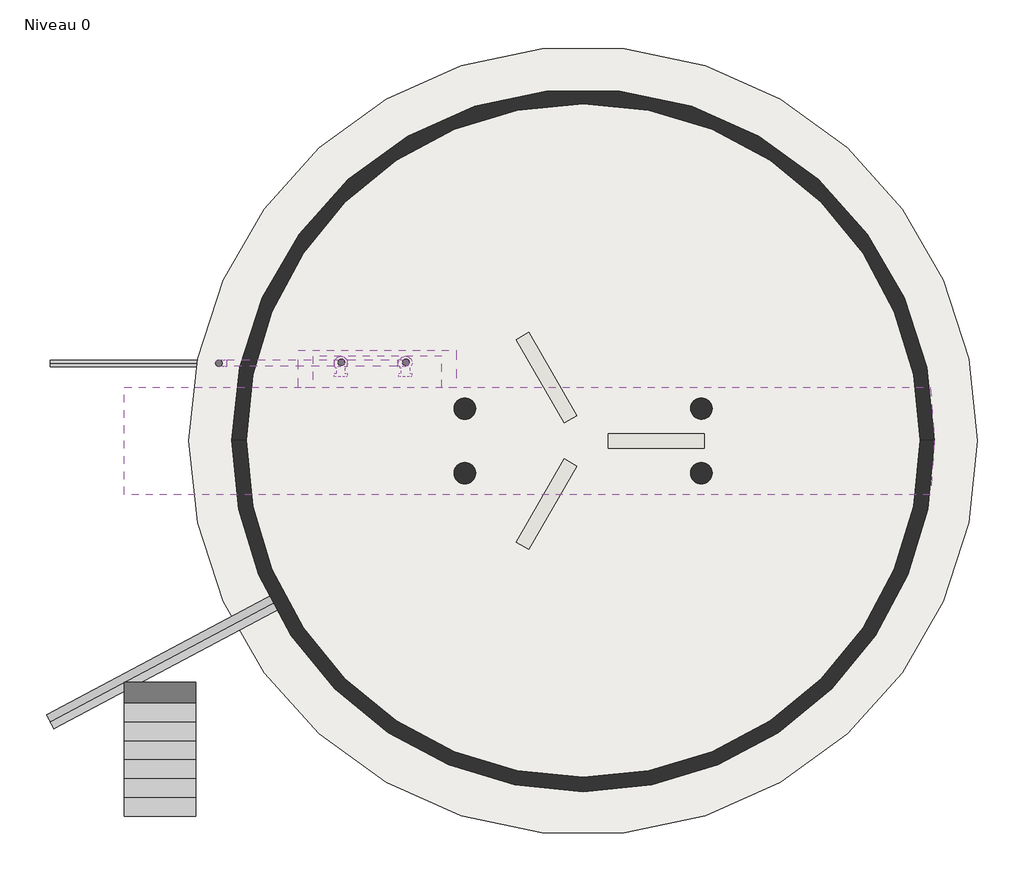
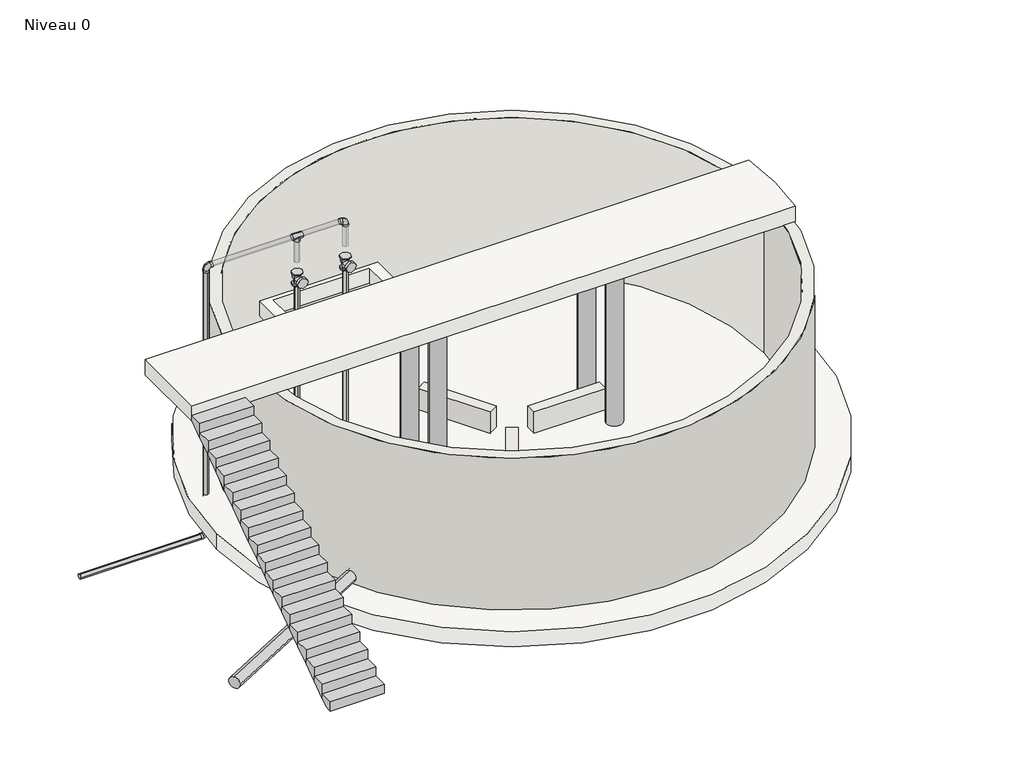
# One storey, incomplete: 9 pipe segments, 5 walls, 4 columns, 4 pipe fittings, 4 slabs, 2 valves, 1 stair flight.
"""IFC4 building model written with IfcOpenShell, lengths in millimetres."""

from ifc_helpers import new_model, si_unit, point, frame, frame_2d, origin, origin_with_axes, place, context, project, spatial, polyline, circle_curve, trimmed, segment, composite_curve, outline, extrude, faceted_brep, transform, mapped, element, save
from components import standard_a8c67635, standard_fcc2b165, valve_80_mm_5b8f5b0f

model = new_model("IFC4")

# Units and contexts
model_context = context("Model", 3, world=origin())
ifc_project = project(units=[si_unit("LENGTHUNIT", "METRE", prefix="MILLI")], contexts=[model_context])

# Site, building, storey
site = spatial("IfcSite", under=ifc_project)
building = spatial("IfcBuilding", under=site)
storey = spatial("IfcBuildingStorey", under=building, Name="Niveau 0", Elevation=0.0)

# Columns
placement = place(None, origin())
element("IfcColumn", 1, ObjectType="Poteau béton - Arrondi : 300mm", at=placement, inside=storey, context=model_context, shape_type="SweptSolid", body=[
    extrude(outline(composite_curve([segment(trimmed(circle_curve(frame_2d((2182.0788047, 190.7851563)), 150.0), [point((2032.0788047, 190.7851563))], [point((2332.0788047, 190.7851563))], False, "CARTESIAN"), True, "CONTINUOUS"), segment(trimmed(circle_curve(frame_2d((2182.0788047, 190.7851563)), 150.0), [point((2332.0788047, 190.7851563))], [point((2032.0788047, 190.7851563))], False, "CARTESIAN"), True, "CONTINUOUS")], self_intersect=False)), origin_with_axes(), (0.0, 0.0, 1.0), 3000.0),
])
element("IfcColumn", 2, ObjectType="Poteau béton - Arrondi : 300mm", at=placement, inside=storey, context=model_context, shape_type="SweptSolid", body=[
    extrude(outline(composite_curve([segment(trimmed(circle_curve(frame_2d((2182.0788047, -709.2148437)), 150.0), [point((2032.0788047, -709.2148437))], [point((2332.0788047, -709.2148437))], False, "CARTESIAN"), True, "CONTINUOUS"), segment(trimmed(circle_curve(frame_2d((2182.0788047, -709.2148437)), 150.0), [point((2332.0788047, -709.2148437))], [point((2032.0788047, -709.2148437))], False, "CARTESIAN"), True, "CONTINUOUS")], self_intersect=False)), origin_with_axes(), (0.0, 0.0, 1.0), 3000.0),
])
element("IfcColumn", 3, ObjectType="Poteau béton - Arrondi : 300mm", at=placement, inside=storey, context=model_context, shape_type="SweptSolid", body=[
    extrude(outline(composite_curve([segment(trimmed(circle_curve(frame_2d((-1117.9211953, 190.7851563)), 150.0), [point((-1267.9211953, 190.7851563))], [point((-967.9211953, 190.7851563))], False, "CARTESIAN"), True, "CONTINUOUS"), segment(trimmed(circle_curve(frame_2d((-1117.9211953, 190.7851563)), 150.0), [point((-967.9211953, 190.7851563))], [point((-1267.9211953, 190.7851563))], False, "CARTESIAN"), True, "CONTINUOUS")], self_intersect=False)), origin_with_axes(), (0.0, 0.0, 1.0), 3000.0),
])
element("IfcColumn", 4, ObjectType="Poteau béton - Arrondi : 300mm", at=placement, inside=storey, context=model_context, shape_type="SweptSolid", body=[
    extrude(outline(composite_curve([segment(trimmed(circle_curve(frame_2d((-1117.9211953, -709.2148437)), 150.0), [point((-1267.9211953, -709.2148437))], [point((-967.9211953, -709.2148437))], False, "CARTESIAN"), True, "CONTINUOUS"), segment(trimmed(circle_curve(frame_2d((-1117.9211953, -709.2148437)), 150.0), [point((-967.9211953, -709.2148437))], [point((-1267.9211953, -709.2148437))], False, "CARTESIAN"), True, "CONTINUOUS")], self_intersect=False)), origin_with_axes(), (0.0, 0.0, 1.0), 3000.0),
])

# Pipe fittings
standard_shape = standard_a8c67635(model_context)
element("IfcPipeFitting", 5, ObjectType="Coude court PVC-C Pression PN 16 : Standard", at=placement, inside=storey, context=model_context, shape_type="MappedRepresentation", body=[
    mapped(standard_shape, transform((-1947.4211953, 823.0634199, 4355.6264193), x_axis=(0.0, 0.0, 1.0), y_axis=(-1.0, 0.0, 0.0), z_axis=(0.0, -1.0, 0.0))),
])
element("IfcPipeFitting", 6, ObjectType="Coude court PVC-C Pression PN 16 : Standard", at=placement, inside=storey, context=model_context, shape_type="MappedRepresentation", body=[
    mapped(standard_shape, transform((-4416.45985, 823.0634199, 4486.5877646), x_axis=(-1.0, 0.0, 0.0), y_axis=(0.0, 0.0, -1.0), z_axis=(0.0, -1.0, 0.0))),
])
element("IfcPipeFitting", 7, ObjectType="Coude court PVC-C Pression PN 16 : Standard", at=placement, inside=storey, context=model_context, shape_type="MappedRepresentation", body=[
    mapped(standard_shape, transform((-4547.4211953, 823.0634199, -682.4508902), x_axis=(0.0, 0.0, -1.0), y_axis=(-1.0, 0.0, 0.0), z_axis=(0.0, 1.0, 0.0))),
])
standard_2_shape = standard_fcc2b165(model_context)
element("IfcPipeFitting", 8, ObjectType="Té PVC-C Pression PN 16 : Standard", at=placement, inside=storey, context=model_context, shape_type="MappedRepresentation", body=[
    mapped(standard_2_shape, transform((-2846.5319242, 823.0634199, 4486.5877646), x_axis=(1.0, 0.0, 0.0), y_axis=(0.0, 0.0, -1.0), z_axis=(0.0, 1.0, 0.0))),
])

# Pipe segments
element("IfcPipeSegment", 9, ObjectType="Par défaut", at=placement, inside=storey, context=model_context, shape_type="SweptSolid", body=[
    extrude(outline(composite_curve([segment(trimmed(circle_curve(frame_2d((0.0, -109.5375)), 109.5375), [point((-109.5375, -109.5375))], [point((0.0, 0.0))], False, "CARTESIAN"), True, "CONTINUOUS"), segment(trimmed(circle_curve(frame_2d((0.0, -109.5375)), 109.5375), [point((0.0, 0.0))], [point((109.5374999, -109.5375))], False, "CARTESIAN"), True, "CONTINUOUS"), segment(trimmed(circle_curve(frame_2d((0.0, -109.5375)), 109.5375), [point((109.5374999, -109.5375))], [point((0.0, -219.075))], False, "CARTESIAN"), True, "CONTINUOUS"), segment(trimmed(circle_curve(frame_2d((0.0, -109.5375)), 109.5375), [point((0.0, -219.075))], [point((-109.5375, -109.5375))], False, "CARTESIAN"), True, "CONTINUOUS")], self_intersect=False)), frame((-6901.3683977, -4178.5310635, 20.4625), z_axis=(0.8829475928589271, 0.46947156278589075, 0.0), x_axis=(0.46947156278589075, -0.8829475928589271, 0.0)), (0.0, 0.0, 1.0), 3715.0),
])
element("IfcPipeSegment", 10, ObjectType="PVC Pression PVC-C PN 16", at=placement, inside=storey, context=model_context, shape_type="SweptSolid", body=[
    extrude(outline(composite_curve([segment(trimmed(circle_curve(frame_2d((-2839.9211953, 836.7950784)), 45.0), [point((-2884.9211953, 836.7950784))], [point((-2839.9211953, 881.7950784))], False, "CARTESIAN"), True, "CONTINUOUS"), segment(trimmed(circle_curve(frame_2d((-2839.9211953, 836.7950784)), 45.0), [point((-2839.9211953, 881.7950784))], [point((-2794.9211953, 836.7950784))], False, "CARTESIAN"), True, "CONTINUOUS"), segment(trimmed(circle_curve(frame_2d((-2839.9211953, 836.7950784)), 45.0), [point((-2794.9211953, 836.7950784))], [point((-2839.9211953, 791.7950784))], False, "CARTESIAN"), True, "CONTINUOUS"), segment(trimmed(circle_curve(frame_2d((-2839.9211953, 836.7950784)), 45.0), [point((-2839.9211953, 791.7950784))], [point((-2884.9211953, 836.7950784))], False, "CARTESIAN"), True, "CONTINUOUS")], self_intersect=False)), frame((0.0, 0.0, 512.0), z_axis=(0.0, 0.0, 1.0), x_axis=(1.0, 0.0, 0.0)), (0.0, 0.0, 1.0), 3030.0),
])
element("IfcPipeSegment", 11, ObjectType="PVC Pression PVC-C PN 16", at=placement, inside=storey, context=model_context, shape_type="SweptSolid", body=[
    extrude(outline(composite_curve([segment(trimmed(circle_curve(frame_2d((-1939.9211953, 836.7950784)), 45.0), [point((-1984.9211953, 836.7950784))], [point((-1939.9211953, 881.7950784))], False, "CARTESIAN"), True, "CONTINUOUS"), segment(trimmed(circle_curve(frame_2d((-1939.9211953, 836.7950784)), 45.0), [point((-1939.9211953, 881.7950784))], [point((-1894.9211953, 836.7950784))], False, "CARTESIAN"), True, "CONTINUOUS"), segment(trimmed(circle_curve(frame_2d((-1939.9211953, 836.7950784)), 45.0), [point((-1894.9211953, 836.7950784))], [point((-1939.9211953, 791.7950784))], False, "CARTESIAN"), True, "CONTINUOUS"), segment(trimmed(circle_curve(frame_2d((-1939.9211953, 836.7950784)), 45.0), [point((-1939.9211953, 791.7950784))], [point((-1984.9211953, 836.7950784))], False, "CARTESIAN"), True, "CONTINUOUS")], self_intersect=False)), frame((0.0, 0.0, 512.0), z_axis=(0.0, 0.0, 1.0), x_axis=(1.0, 0.0, 0.0)), (0.0, 0.0, 1.0), 3030.0),
])
element("IfcPipeSegment", 12, ObjectType="PVC Pression PVC-C PN 16", at=placement, inside=storey, context=model_context, shape_type="SweptSolid", body=[
    extrude(outline(composite_curve([segment(trimmed(circle_curve(frame_2d((-1947.4211953, 823.0634199)), 45.0), [point((-1992.4211953, 823.0634199))], [point((-1947.4211953, 868.0634199))], False, "CARTESIAN"), True, "CONTINUOUS"), segment(trimmed(circle_curve(frame_2d((-1947.4211953, 823.0634199)), 45.0), [point((-1947.4211953, 868.0634199))], [point((-1902.4211953, 823.0634199))], False, "CARTESIAN"), True, "CONTINUOUS"), segment(trimmed(circle_curve(frame_2d((-1947.4211953, 823.0634199)), 45.0), [point((-1902.4211953, 823.0634199))], [point((-1947.4211953, 778.0634199))], False, "CARTESIAN"), True, "CONTINUOUS"), segment(trimmed(circle_curve(frame_2d((-1947.4211953, 823.0634199)), 45.0), [point((-1947.4211953, 778.0634199))], [point((-1992.4211953, 823.0634199))], False, "CARTESIAN"), True, "CONTINUOUS")], self_intersect=False)), frame((0.0, 0.0, 3986.5877646), z_axis=(0.0, 0.0, 1.0), x_axis=(1.0, 0.0, 0.0)), (0.0, 0.0, 1.0), 394.760104),
])
element("IfcPipeSegment", 13, ObjectType="PVC Pression PVC-C PN 16", at=placement, inside=storey, context=model_context, shape_type="SweptSolid", body=[
    extrude(outline(composite_curve([segment(trimmed(circle_curve(frame_2d((823.0634199, 4486.5877646)), 45.0), [point((868.0634199, 4486.5877646))], [point((823.0634199, 4441.5877646))], False, "CARTESIAN"), True, "CONTINUOUS"), segment(trimmed(circle_curve(frame_2d((823.0634199, 4486.5877646)), 45.0), [point((823.0634199, 4441.5877646))], [point((778.0634199, 4486.5877646))], False, "CARTESIAN"), True, "CONTINUOUS"), segment(trimmed(circle_curve(frame_2d((823.0634199, 4486.5877646)), 45.0), [point((778.0634199, 4486.5877646))], [point((823.0634199, 4531.5877646))], False, "CARTESIAN"), True, "CONTINUOUS"), segment(trimmed(circle_curve(frame_2d((823.0634199, 4486.5877646)), 45.0), [point((823.0634199, 4531.5877646))], [point((868.0634199, 4486.5877646))], False, "CARTESIAN"), True, "CONTINUOUS")], self_intersect=False)), frame((-4442.1812993, 0.0, 0.0), z_axis=(1.0, 0.0, 0.0), x_axis=(0.0, 1.0, 0.0)), (0.0, 0.0, 1.0), 1505.6493751),
])
element("IfcPipeSegment", 14, ObjectType="PVC Pression PVC-C PN 16", at=placement, inside=storey, context=model_context, shape_type="SweptSolid", body=[
    extrude(outline(composite_curve([segment(trimmed(circle_curve(frame_2d((-4547.4211953, 823.0634199)), 45.0), [point((-4502.4211953, 823.0634199))], [point((-4547.4211953, 778.0634199))], False, "CARTESIAN"), True, "CONTINUOUS"), segment(trimmed(circle_curve(frame_2d((-4547.4211953, 823.0634199)), 45.0), [point((-4547.4211953, 778.0634199))], [point((-4592.4211953, 823.0634199))], False, "CARTESIAN"), True, "CONTINUOUS"), segment(trimmed(circle_curve(frame_2d((-4547.4211953, 823.0634199)), 45.0), [point((-4592.4211953, 823.0634199))], [point((-4547.4211953, 868.0634199))], False, "CARTESIAN"), True, "CONTINUOUS"), segment(trimmed(circle_curve(frame_2d((-4547.4211953, 823.0634199)), 45.0), [point((-4547.4211953, 868.0634199))], [point((-4502.4211953, 823.0634199))], False, "CARTESIAN"), True, "CONTINUOUS")], self_intersect=False)), frame((0.0, 0.0, -708.1723394), z_axis=(0.0, 0.0, 1.0), x_axis=(1.0, 0.0, 0.0)), (0.0, 0.0, 1.0), 5089.520208),
])
element("IfcPipeSegment", 15, ObjectType="PVC Pression PVC-C PN 16", at=placement, inside=storey, context=model_context, shape_type="SweptSolid", body=[
    extrude(outline(composite_curve([segment(trimmed(circle_curve(frame_2d((823.0634199, -813.4122354)), 45.0), [point((868.0634199, -813.4122354))], [point((823.0634199, -858.4122354))], False, "CARTESIAN"), True, "CONTINUOUS"), segment(trimmed(circle_curve(frame_2d((823.0634199, -813.4122354)), 45.0), [point((823.0634199, -858.4122354))], [point((778.0634199, -813.4122354))], False, "CARTESIAN"), True, "CONTINUOUS"), segment(trimmed(circle_curve(frame_2d((823.0634199, -813.4122354)), 45.0), [point((778.0634199, -813.4122354))], [point((823.0634199, -768.4122354))], False, "CARTESIAN"), True, "CONTINUOUS"), segment(trimmed(circle_curve(frame_2d((823.0634199, -813.4122354)), 45.0), [point((823.0634199, -768.4122354))], [point((868.0634199, -813.4122354))], False, "CARTESIAN"), True, "CONTINUOUS")], self_intersect=False)), frame((-6901.3683977, 0.0, 0.0), z_axis=(1.0, 0.0, 0.0), x_axis=(0.0, 1.0, 0.0)), (0.0, 0.0, 1.0), 2248.7073064),
])
element("IfcPipeSegment", 16, ObjectType="PVC Pression PVC-C PN 16", at=placement, inside=storey, context=model_context, shape_type="SweptSolid", body=[
    extrude(outline(composite_curve([segment(trimmed(circle_curve(frame_2d((-2846.5319242, 823.0634199)), 45.0), [point((-2801.5319242, 823.0634199))], [point((-2846.5319242, 778.0634199))], False, "CARTESIAN"), True, "CONTINUOUS"), segment(trimmed(circle_curve(frame_2d((-2846.5319242, 823.0634199)), 45.0), [point((-2846.5319242, 778.0634199))], [point((-2891.5319242, 823.0634199))], False, "CARTESIAN"), True, "CONTINUOUS"), segment(trimmed(circle_curve(frame_2d((-2846.5319242, 823.0634199)), 45.0), [point((-2891.5319242, 823.0634199))], [point((-2846.5319242, 868.0634199))], False, "CARTESIAN"), True, "CONTINUOUS"), segment(trimmed(circle_curve(frame_2d((-2846.5319242, 823.0634199)), 45.0), [point((-2846.5319242, 868.0634199))], [point((-2801.5319242, 823.0634199))], False, "CARTESIAN"), True, "CONTINUOUS")], self_intersect=False)), frame((0.0, 0.0, 3986.5877646), z_axis=(0.0, 0.0, 1.0), x_axis=(1.0, 0.0, 0.0)), (0.0, 0.0, 1.0), 410.0),
])
element("IfcPipeSegment", 17, ObjectType="PVC Pression PVC-C PN 16", at=placement, inside=storey, context=model_context, shape_type="SweptSolid", body=[
    extrude(outline(composite_curve([segment(trimmed(circle_curve(frame_2d((823.0634199, 4486.5877646)), 45.0), [point((868.0634199, 4486.5877646))], [point((823.0634199, 4441.5877646))], False, "CARTESIAN"), True, "CONTINUOUS"), segment(trimmed(circle_curve(frame_2d((823.0634199, 4486.5877646)), 45.0), [point((823.0634199, 4441.5877646))], [point((778.0634199, 4486.5877646))], False, "CARTESIAN"), True, "CONTINUOUS"), segment(trimmed(circle_curve(frame_2d((823.0634199, 4486.5877646)), 45.0), [point((778.0634199, 4486.5877646))], [point((823.0634199, 4531.5877646))], False, "CARTESIAN"), True, "CONTINUOUS"), segment(trimmed(circle_curve(frame_2d((823.0634199, 4486.5877646)), 45.0), [point((823.0634199, 4531.5877646))], [point((868.0634199, 4486.5877646))], False, "CARTESIAN"), True, "CONTINUOUS")], self_intersect=False)), frame((-2756.5319242, 0.0, 0.0), z_axis=(1.0, 0.0, 0.0), x_axis=(0.0, 1.0, 0.0)), (0.0, 0.0, 1.0), 703.8708329),
])

# Slabs
element("IfcSlab", 18, ObjectType="Dalle en béton - 250 mm", at=placement, inside=storey, context=model_context, shape_type="SweptSolid", body=[
    extrude(outline(composite_curve([segment(trimmed(circle_curve(frame_2d((534.1794672, -258.406044)), 5500.0), [point((-4965.8205328, -258.406044))], [point((6034.1794672, -258.406044))], False, "CARTESIAN"), True, "CONTINUOUS"), segment(trimmed(circle_curve(frame_2d((534.1794672, -258.406044)), 5500.0), [point((6034.1794672, -258.406044))], [point((-4965.8205328, -258.406044))], False, "CARTESIAN"), True, "CONTINUOUS")], self_intersect=False)), frame((0.0, 0.0, -300.0), z_axis=(0.0, 0.0, 1.0), x_axis=(1.0, 0.0, 0.0)), (0.0, 0.0, 1.0), 300.0),
])
element("IfcSlab", 19, ObjectType="Dalle en béton - 250 mm", at=placement, inside=storey, context=model_context, shape_type="SweptSolid", body=[
    extrude(outline(composite_curve([segment(trimmed(circle_curve(frame_2d((533.9081305, -254.4868537)), 4700.0), [point((-4166.0918695, -254.4868537))], [point((5233.9081305, -254.4868537))], False, "CARTESIAN"), True, "CONTINUOUS"), segment(trimmed(circle_curve(frame_2d((533.9081305, -254.4868537)), 4700.0), [point((5233.9081305, -254.4868537))], [point((-4166.0918695, -254.4868537))], False, "CARTESIAN"), True, "CONTINUOUS")], self_intersect=False)), frame((0.0, 0.0, -300.0), z_axis=(0.0, 0.0, 1.0), x_axis=(1.0, 0.0, 0.0)), (0.0, 0.0, 1.0), 300.0),
])
element("IfcSlab", 20, ObjectType="Dalle en béton - 250 mm", at=placement, inside=storey, context=model_context, shape_type="SweptSolid", body=[
    extrude(outline(composite_curve([segment(polyline([(-5865.8205328, 490.7851563), (5376.8999363, 490.7851563)]), True, "CONTINUOUS"), segment(trimmed(circle_curve(frame_2d((472.0987949, -259.2148437)), 4961.8115882), [point((5376.8999363, 490.7851563))], [point((5376.8999363, -1009.2148437))], False, "CARTESIAN"), True, "CONTINUOUS"), segment(polyline([(5376.8999363, -1009.2148437), (-5865.8205328, -1009.2148437), (-5865.8205328, 490.7851563)]), True, "CONTINUOUS")], self_intersect=False)), frame((0.0, 0.0, 3000.0), z_axis=(0.0, 0.0, 1.0), x_axis=(1.0, 0.0, 0.0)), (0.0, 0.0, 1.0), 300.0),
])
element("IfcSlab", 21, ObjectType="Dalle en béton - 250 mm", at=placement, inside=storey, context=model_context, shape_type="SweptSolid", body=[
    extrude(outline(polyline([(-3440.4581719, 1002.5362553), (-1240.4581719, 1002.5362553), (-1240.4581719, 482.5362553), (-1440.4581719, 482.5362553), (-1440.4581719, 922.5362553), (-3240.4581719, 922.5362553), (-3240.4581719, 482.5362553), (-3440.4581719, 482.5362553), (-3440.4581719, 1002.5362553)])), frame((0.0, 0.0, 3000.0), z_axis=(0.0, 0.0, 1.0), x_axis=(1.0, 0.0, 0.0)), (0.0, 0.0, 1.0), 300.0),
])

# Stair flight
element("IfcStairFlight", 22, ObjectType="Profondeur de structure 80 mm", at=placement, inside=storey, context=model_context, shape_type="Brep", body=[
    faceted_brep([(-5871.4997395, -5229.9911217, 183.3333333), (-5871.4997395, -5493.324455, 183.3333333), (-4871.4997395, -5493.324455, 183.3333333), (-4871.4997395, -5229.9911217, 183.3333333), (-5871.4997395, -5229.9911217, 85.8547871), (-5871.4997395, -5353.3098158, 0.0), (-5871.4997395, -5493.324455, 0.0), (-4871.4997395, -5493.324455, 0.0), (-4871.4997395, -5353.3098158, 0.0), (-4871.4997395, -5229.9911217, 85.8547871), (-5871.4997395, -4966.6577883, 366.6666667), (-5871.4997395, -5229.9911217, 366.6666667), (-4871.4997395, -5229.9911217, 366.6666667), (-4871.4997395, -4966.6577883, 366.6666667), (-5871.4997395, -4966.6577883, 269.1881204), (-4871.4997395, -4966.6577883, 269.1881204), (-5871.4997395, -4703.324455, 550.0), (-5871.4997395, -4966.6577883, 550.0), (-4871.4997395, -4966.6577883, 550.0), (-4871.4997395, -4703.324455, 550.0), (-5871.4997395, -4703.324455, 452.5214538), (-4871.4997395, -4703.324455, 452.5214538), (-5871.4997395, -4439.9911217, 733.3333333), (-5871.4997395, -4703.324455, 733.3333333), (-4871.4997395, -4703.324455, 733.3333333), (-4871.4997395, -4439.9911217, 733.3333333), (-5871.4997395, -4439.9911217, 635.8547871), (-4871.4997395, -4439.9911217, 635.8547871), (-5871.4997395, -4176.6577883, 916.6666667), (-5871.4997395, -4439.9911217, 916.6666667), (-4871.4997395, -4439.9911217, 916.6666667), (-4871.4997395, -4176.6577883, 916.6666667), (-5871.4997395, -4176.6577883, 819.1881204), (-4871.4997395, -4176.6577883, 819.1881204), (-5871.4997395, -3913.324455, 1100.0), (-5871.4997395, -4176.6577883, 1100.0), (-4871.4997395, -4176.6577883, 1100.0), (-4871.4997395, -3913.324455, 1100.0), (-5871.4997395, -3913.324455, 1002.5214538), (-4871.4997395, -3913.324455, 1002.5214538), (-5871.4997395, -3649.9911217, 1283.3333333), (-5871.4997395, -3913.324455, 1283.3333333), (-4871.4997395, -3913.324455, 1283.3333333), (-4871.4997395, -3649.9911217, 1283.3333333), (-5871.4997395, -3649.9911217, 1185.8547871), (-4871.4997395, -3649.9911217, 1185.8547871), (-5871.4997395, -3386.6577883, 1466.6666667), (-5871.4997395, -3649.9911217, 1466.6666667), (-4871.4997395, -3649.9911217, 1466.6666667), (-4871.4997395, -3386.6577883, 1466.6666667), (-5871.4997395, -3386.6577883, 1369.1881204), (-4871.4997395, -3386.6577883, 1369.1881204), (-5871.4997395, -3123.324455, 1650.0), (-5871.4997395, -3386.6577883, 1650.0), (-4871.4997395, -3386.6577883, 1650.0), (-4871.4997395, -3123.324455, 1650.0), (-5871.4997395, -3123.324455, 1552.5214538), (-4871.4997395, -3123.324455, 1552.5214538), (-5871.4997395, -2859.9911217, 1833.3333333), (-5871.4997395, -3123.324455, 1833.3333333), (-4871.4997395, -3123.324455, 1833.3333333), (-4871.4997395, -2859.9911217, 1833.3333333), (-5871.4997395, -2859.9911217, 1735.8547871), (-4871.4997395, -2859.9911217, 1735.8547871), (-5871.4997395, -2596.6577883, 2016.6666667), (-5871.4997395, -2859.9911217, 2016.6666667), (-4871.4997395, -2859.9911217, 2016.6666667), (-4871.4997395, -2596.6577883, 2016.6666667), (-5871.4997395, -2596.6577883, 1919.1881204), (-4871.4997395, -2596.6577883, 1919.1881204), (-5871.4997395, -2333.324455, 2200.0), (-5871.4997395, -2596.6577883, 2200.0), (-4871.4997395, -2596.6577883, 2200.0), (-4871.4997395, -2333.324455, 2200.0), (-5871.4997395, -2333.324455, 2102.5214538), (-4871.4997395, -2333.324455, 2102.5214538), (-5871.4997395, -2069.9911217, 2383.3333333), (-5871.4997395, -2333.324455, 2383.3333333), (-4871.4997395, -2333.324455, 2383.3333333), (-4871.4997395, -2069.9911217, 2383.3333333), (-5871.4997395, -2069.9911217, 2285.8547871), (-4871.4997395, -2069.9911217, 2285.8547871), (-5871.4997395, -1806.6577883, 2566.6666667), (-5871.4997395, -2069.9911217, 2566.6666667), (-4871.4997395, -2069.9911217, 2566.6666667), (-4871.4997395, -1806.6577883, 2566.6666667), (-5871.4997395, -1806.6577883, 2469.1881204), (-4871.4997395, -1806.6577883, 2469.1881204), (-5871.4997395, -1543.324455, 2750.0), (-5871.4997395, -1806.6577883, 2750.0), (-4871.4997395, -1806.6577883, 2750.0), (-4871.4997395, -1543.324455, 2750.0), (-5871.4997395, -1543.324455, 2652.5214538), (-4871.4997395, -1543.324455, 2652.5214538), (-5871.4997395, -1279.9911217, 2933.3333333), (-5871.4997395, -1543.324455, 2933.3333333), (-4871.4997395, -1543.324455, 2933.3333333), (-4871.4997395, -1279.9911217, 2933.3333333), (-5871.4997395, -1279.9911217, 2835.8547871), (-4871.4997395, -1279.9911217, 2835.8547871), (-5871.4997395, -1016.6577883, 3116.6666667), (-5871.4997395, -1279.9911217, 3116.6666667), (-4871.4997395, -1279.9911217, 3116.6666667), (-4871.4997395, -1016.6577883, 3116.6666667), (-5871.4997395, -1016.6577883, 3019.1881204), (-4871.4997395, -1016.6577883, 3019.1881204)], [[[0, 1, 2, 3]], [[1, 0, 4, 5, 6]], [[2, 1, 6, 7]], [[3, 2, 7, 8, 9]], [[10, 11, 12, 13]], [[11, 10, 14, 4, 0]], [[0, 3, 12, 11]], [[13, 12, 3, 9, 15]], [[16, 17, 18, 19]], [[17, 16, 20, 14, 10]], [[10, 13, 18, 17]], [[19, 18, 13, 15, 21]], [[22, 23, 24, 25]], [[23, 22, 26, 20, 16]], [[16, 19, 24, 23]], [[25, 24, 19, 21, 27]], [[28, 29, 30, 31]], [[29, 28, 32, 26, 22]], [[22, 25, 30, 29]], [[31, 30, 25, 27, 33]], [[34, 35, 36, 37]], [[35, 34, 38, 32, 28]], [[28, 31, 36, 35]], [[37, 36, 31, 33, 39]], [[40, 41, 42, 43]], [[41, 40, 44, 38, 34]], [[34, 37, 42, 41]], [[43, 42, 37, 39, 45]], [[46, 47, 48, 49]], [[47, 46, 50, 44, 40]], [[40, 43, 48, 47]], [[49, 48, 43, 45, 51]], [[52, 53, 54, 55]], [[53, 52, 56, 50, 46]], [[46, 49, 54, 53]], [[55, 54, 49, 51, 57]], [[58, 59, 60, 61]], [[59, 58, 62, 56, 52]], [[52, 55, 60, 59]], [[61, 60, 55, 57, 63]], [[64, 65, 66, 67]], [[65, 64, 68, 62, 58]], [[58, 61, 66, 65]], [[67, 66, 61, 63, 69]], [[70, 71, 72, 73]], [[71, 70, 74, 68, 64]], [[64, 67, 72, 71]], [[73, 72, 67, 69, 75]], [[76, 77, 78, 79]], [[77, 76, 80, 74, 70]], [[70, 73, 78, 77]], [[79, 78, 73, 75, 81]], [[82, 83, 84, 85]], [[83, 82, 86, 80, 76]], [[76, 79, 84, 83]], [[85, 84, 79, 81, 87]], [[88, 89, 90, 91]], [[89, 88, 92, 86, 82]], [[82, 85, 90, 89]], [[91, 90, 85, 87, 93]], [[94, 95, 96, 97]], [[95, 94, 98, 92, 88]], [[88, 91, 96, 95]], [[97, 96, 91, 93, 99]], [[100, 101, 102, 103]], [[101, 100, 104, 98, 94]], [[94, 97, 102, 101]], [[103, 102, 97, 99, 105]], [[100, 103, 105, 104]], [[7, 6, 5, 8]], [[8, 5, 4, 14, 20, 26, 32, 38, 44, 50, 56, 62, 68, 74, 80, 86, 92, 98, 104, 105, 99, 93, 87, 81, 75, 69, 63, 57, 51, 45, 39, 33, 27, 21, 15, 9]]]),
])

# Valves
valve_80_mm_shape = valve_80_mm_5b8f5b0f(model_context)
element("IfcValve", 23, ObjectType="Clapet anti-retour - 50-300 mm - Bridé : 80 mm", at=placement, inside=storey, context=model_context, shape_type="MappedRepresentation", body=[
    mapped(valve_80_mm_shape, transform((-2846.5319242, 823.0634199, 3659.7570634), x_axis=(-0.010493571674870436, 0.0, 0.9999449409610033), y_axis=(-0.9999449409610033, 0.0, -0.010493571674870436), z_axis=(0.0, -1.0, 0.0))),
])
element("IfcValve", 24, ObjectType="Clapet anti-retour - 50-300 mm - Bridé : 80 mm", at=placement, inside=storey, context=model_context, shape_type="MappedRepresentation", body=[
    mapped(valve_80_mm_shape, transform((-1946.5319242, 823.0634199, 3659.7570634), x_axis=(-0.010493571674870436, 0.0, 0.9999449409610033), y_axis=(-0.9999449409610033, 0.0, -0.010493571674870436), z_axis=(0.0, -1.0, 0.0))),
])

# Walls
element("IfcWall", 25, ObjectType="Générique - Ext. 200 mm", at=placement, inside=storey, context=model_context, shape_type="SweptSolid", body=[
    extrude(outline(composite_curve([segment(polyline([(-4166.0918695, -254.4868537), (-4366.0918695, -254.4868537)]), True, "CONTINUOUS"), segment(trimmed(circle_curve(frame_2d((533.9081305, -254.4868537)), 4900.0), [point((-4366.0918695, -254.4868537))], [point((5433.9081305, -254.4868537))], False, "CARTESIAN"), True, "CONTINUOUS"), segment(polyline([(5433.9081305, -254.4868537), (5233.9081305, -254.4868537)]), True, "CONTINUOUS"), segment(trimmed(circle_curve(frame_2d((533.9081305, -254.4868537)), 4700.0), [point((5233.9081305, -254.4868537))], [point((-4166.0918695, -254.4868537))], True, "CARTESIAN"), True, "CONTINUOUS")], self_intersect=False)), origin_with_axes(), (0.0, 0.0, 1.0), 3000.0),
])
element("IfcWall", 26, ObjectType="Générique - Ext. 200 mm", at=placement, inside=storey, context=model_context, shape_type="SweptSolid", body=[
    extrude(outline(composite_curve([segment(polyline([(5233.9081305, -254.4868537), (5433.9081305, -254.4868537)]), True, "CONTINUOUS"), segment(trimmed(circle_curve(frame_2d((533.9081305, -254.4868537)), 4900.0), [point((5433.9081305, -254.4868537))], [point((-4366.0918695, -254.4868537))], False, "CARTESIAN"), True, "CONTINUOUS"), segment(polyline([(-4366.0918695, -254.4868537), (-4166.0918695, -254.4868537)]), True, "CONTINUOUS"), segment(trimmed(circle_curve(frame_2d((533.9081305, -254.4868537)), 4700.0), [point((-4166.0918695, -254.4868537))], [point((5233.9081305, -254.4868537))], True, "CARTESIAN"), True, "CONTINUOUS")], self_intersect=False)), origin_with_axes(), (0.0, 0.0, 1.0), 3000.0),
])
element("IfcWall", 27, ObjectType="Générique - Ext. 200 mm", at=placement, inside=storey, context=model_context, shape_type="SweptSolid", body=[
    extrude(outline(polyline([(2222.0788047, -359.2148437), (882.0788047, -359.2148437), (882.0788047, -159.2148437), (2222.0788047, -159.2148437), (2222.0788047, -359.2148437)])), origin_with_axes(), (0.0, 0.0, 1.0), 420.0),
])
element("IfcWall", 28, ObjectType="Générique - Ext. 200 mm", at=placement, inside=storey, context=model_context, shape_type="SweptSolid", body=[
    extrude(outline(polyline([(-226.3186549, 1254.3680887), (443.6813451, 93.8940477), (270.4762643, -6.1059523), (-399.5237357, 1154.3680887), (-226.3186549, 1254.3680887)])), origin_with_axes(), (0.0, 0.0, 1.0), 420.0),
])
element("IfcWall", 29, ObjectType="Générique - Ext. 200 mm", at=placement, inside=storey, context=model_context, shape_type="SweptSolid", body=[
    extrude(outline(polyline([(-399.5237357, -1672.7977761), (270.4762643, -512.323735), (443.6813451, -612.323735), (-226.3186549, -1772.7977761), (-399.5237357, -1672.7977761)])), origin_with_axes(), (0.0, 0.0, 1.0), 420.0),
])

save(model, "model.ifc")
